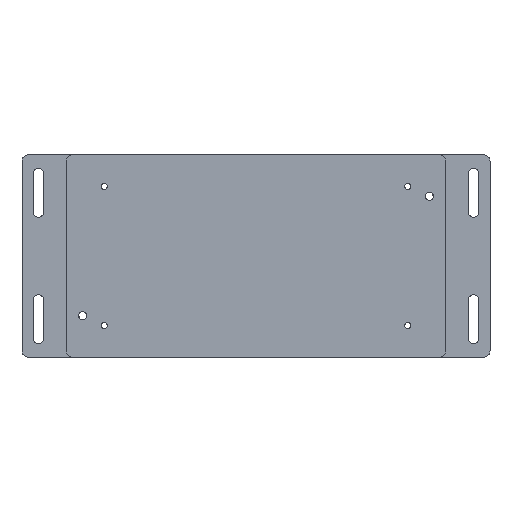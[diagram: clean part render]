
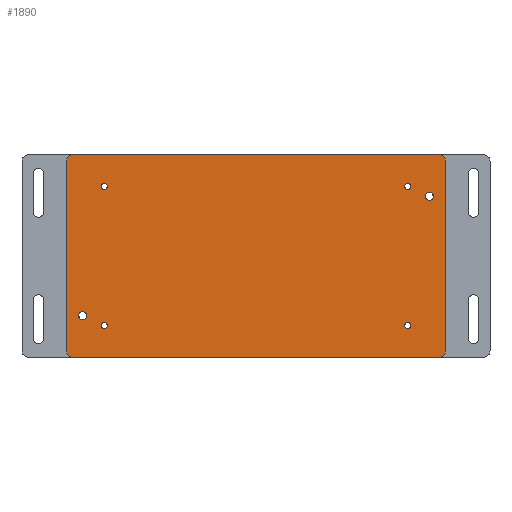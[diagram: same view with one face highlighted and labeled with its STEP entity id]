
A CAD part, top view. The second image highlights one B-rep face of the part: STEP entity #1890.
In plain terms, the highlighted planar face has unit normal (0, 0, 1).
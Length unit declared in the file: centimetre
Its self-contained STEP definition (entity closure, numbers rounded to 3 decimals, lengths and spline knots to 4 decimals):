
#537=PLANE('',#2056);
#612=VECTOR('',#2460,1.);
#613=VECTOR('',#2463,1.);
#614=VECTOR('',#2466,1.);
#615=VECTOR('',#2469,1.);
#692=LINE('',#2889,#612);
#693=LINE('',#2893,#613);
#694=LINE('',#2897,#614);
#695=LINE('',#2901,#615);
#814=VERTEX_POINT('',#2869);
#815=VERTEX_POINT('',#2870);
#818=VERTEX_POINT('',#2878);
#819=VERTEX_POINT('',#2880);
#820=VERTEX_POINT('',#2882);
#821=VERTEX_POINT('',#2884);
#822=VERTEX_POINT('',#2886);
#823=VERTEX_POINT('',#2888);
#824=VERTEX_POINT('',#2890);
#825=VERTEX_POINT('',#2892);
#826=VERTEX_POINT('',#2894);
#827=VERTEX_POINT('',#2896);
#828=VERTEX_POINT('',#2898);
#829=VERTEX_POINT('',#2900);
#930=CIRCLE('',#2054,0.5);
#932=CIRCLE('',#2057,0.325);
#933=CIRCLE('',#2058,0.325);
#934=CIRCLE('',#2059,0.2459);
#935=CIRCLE('',#2060,0.2459);
#936=CIRCLE('',#2061,0.2459);
#937=CIRCLE('',#2062,0.2459);
#938=CIRCLE('',#2063,0.5);
#939=CIRCLE('',#2064,0.5);
#940=CIRCLE('',#2065,0.5);
#1102=EDGE_CURVE('',#814,#815,#930,.T.);
#1106=EDGE_CURVE('',#818,#818,#932,.T.);
#1107=EDGE_CURVE('',#819,#819,#933,.T.);
#1108=EDGE_CURVE('',#820,#820,#934,.T.);
#1109=EDGE_CURVE('',#821,#821,#935,.T.);
#1110=EDGE_CURVE('',#822,#822,#936,.T.);
#1111=EDGE_CURVE('',#823,#823,#937,.T.);
#1112=EDGE_CURVE('',#824,#814,#692,.T.);
#1113=EDGE_CURVE('',#825,#824,#938,.T.);
#1114=EDGE_CURVE('',#826,#825,#693,.T.);
#1115=EDGE_CURVE('',#827,#826,#939,.T.);
#1116=EDGE_CURVE('',#828,#827,#694,.T.);
#1117=EDGE_CURVE('',#829,#828,#940,.T.);
#1118=EDGE_CURVE('',#815,#829,#695,.T.);
#1441=ORIENTED_EDGE('',*,*,#1106,.T.);
#1442=ORIENTED_EDGE('',*,*,#1107,.T.);
#1443=ORIENTED_EDGE('',*,*,#1108,.T.);
#1444=ORIENTED_EDGE('',*,*,#1109,.T.);
#1445=ORIENTED_EDGE('',*,*,#1110,.T.);
#1446=ORIENTED_EDGE('',*,*,#1111,.T.);
#1447=ORIENTED_EDGE('',*,*,#1102,.F.);
#1448=ORIENTED_EDGE('',*,*,#1112,.F.);
#1449=ORIENTED_EDGE('',*,*,#1113,.F.);
#1450=ORIENTED_EDGE('',*,*,#1114,.F.);
#1451=ORIENTED_EDGE('',*,*,#1115,.F.);
#1452=ORIENTED_EDGE('',*,*,#1116,.F.);
#1453=ORIENTED_EDGE('',*,*,#1117,.F.);
#1454=ORIENTED_EDGE('',*,*,#1118,.F.);
#1632=EDGE_LOOP('',(#1441));
#1633=EDGE_LOOP('',(#1442));
#1634=EDGE_LOOP('',(#1443));
#1635=EDGE_LOOP('',(#1444));
#1636=EDGE_LOOP('',(#1445));
#1637=EDGE_LOOP('',(#1446));
#1638=EDGE_LOOP('',(#1447,#1448,#1449,#1450,#1451,#1452,#1453,#1454));
#1788=FACE_BOUND('',#1632,.T.);
#1789=FACE_BOUND('',#1633,.T.);
#1790=FACE_BOUND('',#1634,.T.);
#1791=FACE_BOUND('',#1635,.T.);
#1792=FACE_BOUND('',#1636,.T.);
#1793=FACE_BOUND('',#1637,.T.);
#1794=FACE_BOUND('',#1638,.T.);
#1890=ADVANCED_FACE('',(#1788,#1789,#1790,#1791,#1792,#1793,#1794),#537,
 .T.);
#2054=AXIS2_PLACEMENT_3D('',#2868,#2441,#2442);
#2056=AXIS2_PLACEMENT_3D('',#2876,#2447,$);
#2057=AXIS2_PLACEMENT_3D('',#2877,#2448,#2449);
#2058=AXIS2_PLACEMENT_3D('',#2879,#2450,#2451);
#2059=AXIS2_PLACEMENT_3D('',#2881,#2452,#2453);
#2060=AXIS2_PLACEMENT_3D('',#2883,#2454,#2455);
#2061=AXIS2_PLACEMENT_3D('',#2885,#2456,#2457);
#2062=AXIS2_PLACEMENT_3D('',#2887,#2458,#2459);
#2063=AXIS2_PLACEMENT_3D('',#2891,#2461,#2462);
#2064=AXIS2_PLACEMENT_3D('',#2895,#2464,#2465);
#2065=AXIS2_PLACEMENT_3D('',#2899,#2467,#2468);
#2441=DIRECTION('',(0.,0.,-1.));
#2442=DIRECTION('',(0.354,-0.354,0.));
#2447=DIRECTION('',(0.,0.,1.));
#2448=DIRECTION('',(0.,0.,-1.));
#2449=DIRECTION('',(0.,0.325,0.));
#2450=DIRECTION('',(0.,0.,-1.));
#2451=DIRECTION('',(0.,0.325,0.));
#2452=DIRECTION('',(0.,0.,-1.));
#2453=DIRECTION('',(0.,0.246,0.));
#2454=DIRECTION('',(0.,0.,-1.));
#2455=DIRECTION('',(0.,0.246,0.));
#2456=DIRECTION('',(0.,0.,-1.));
#2457=DIRECTION('',(0.,0.246,0.));
#2458=DIRECTION('',(0.,0.,-1.));
#2459=DIRECTION('',(0.,0.246,0.));
#2460=DIRECTION('',(0.,-1.,0.));
#2461=DIRECTION('',(0.,0.,-1.));
#2462=DIRECTION('',(0.354,0.354,0.));
#2463=DIRECTION('',(1.,0.,0.));
#2464=DIRECTION('',(0.,0.,-1.));
#2465=DIRECTION('',(-0.354,0.354,0.));
#2466=DIRECTION('',(0.,1.,0.));
#2467=DIRECTION('',(0.,0.,-1.));
#2468=DIRECTION('',(-0.354,-0.354,0.));
#2469=DIRECTION('',(-1.,0.,0.));
#2868=CARTESIAN_POINT('',(14.5,-7.5,0.8));
#2869=CARTESIAN_POINT('',(15.,-7.5,0.8));
#2870=CARTESIAN_POINT('',(14.5,-8.,0.8));
#2876=CARTESIAN_POINT('',(0.,0.,0.8));
#2877=CARTESIAN_POINT('',(13.71,4.7207,0.8));
#2878=CARTESIAN_POINT('',(13.71,5.0457,0.8));
#2879=CARTESIAN_POINT('',(-13.71,-4.7207,0.8));
#2880=CARTESIAN_POINT('',(-13.71,-4.3957,0.8));
#2881=CARTESIAN_POINT('',(-12.,-5.5,0.8));
#2882=CARTESIAN_POINT('',(-12.,-5.2542,0.8));
#2883=CARTESIAN_POINT('',(12.,-5.5,0.8));
#2884=CARTESIAN_POINT('',(12.,-5.2542,0.8));
#2885=CARTESIAN_POINT('',(12.,5.5,0.8));
#2886=CARTESIAN_POINT('',(12.,5.7459,0.8));
#2887=CARTESIAN_POINT('',(-12.,5.5,0.8));
#2888=CARTESIAN_POINT('',(-12.,5.7459,0.8));
#2889=CARTESIAN_POINT('',(15.,-8.,0.8));
#2890=CARTESIAN_POINT('',(15.,7.5,0.8));
#2891=CARTESIAN_POINT('',(14.5,7.5,0.8));
#2892=CARTESIAN_POINT('',(14.5,8.,0.8));
#2893=CARTESIAN_POINT('',(15.,8.,0.8));
#2894=CARTESIAN_POINT('',(-14.5,8.,0.8));
#2895=CARTESIAN_POINT('',(-14.5,7.5,0.8));
#2896=CARTESIAN_POINT('',(-15.,7.5,0.8));
#2897=CARTESIAN_POINT('',(-15.,8.,0.8));
#2898=CARTESIAN_POINT('',(-15.,-7.5,0.8));
#2899=CARTESIAN_POINT('',(-14.5,-7.5,0.8));
#2900=CARTESIAN_POINT('',(-14.5,-8.,0.8));
#2901=CARTESIAN_POINT('',(-15.,-8.,0.8));
